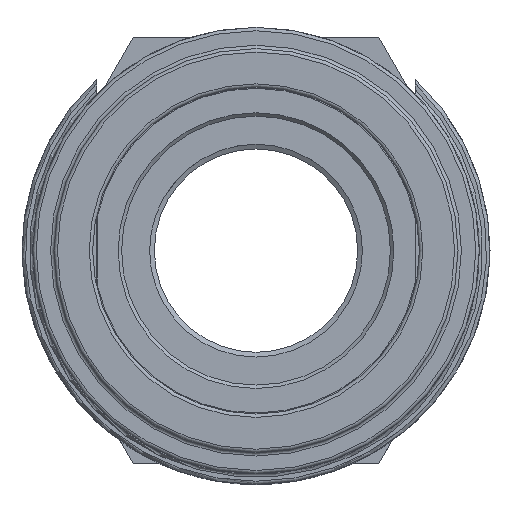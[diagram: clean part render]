
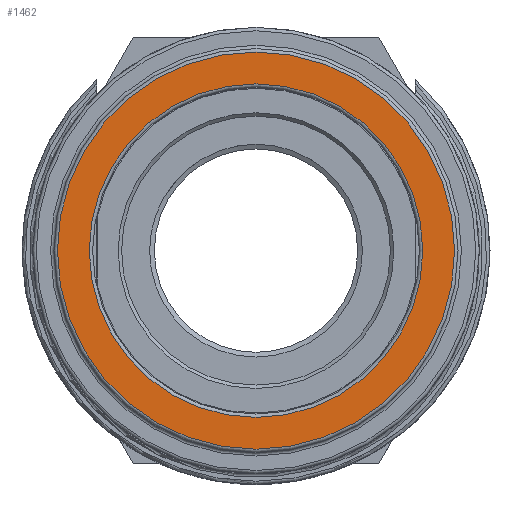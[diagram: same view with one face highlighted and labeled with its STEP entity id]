
A CAD part, front view. The second image highlights one B-rep face of the part: STEP entity #1462.
In plain terms, the highlighted planar face has unit normal (0, -1, 0).
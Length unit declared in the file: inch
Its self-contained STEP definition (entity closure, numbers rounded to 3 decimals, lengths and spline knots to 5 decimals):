
#31=FACE_BOUND('',#209,.T.);
#131=FACE_OUTER_BOUND('',#208,.T.);
#208=EDGE_LOOP('',(#1040,#1041));
#209=EDGE_LOOP('',(#1042,#1043));
#491=CIRCLE('',#1575,0.49);
#492=CIRCLE('',#1576,0.49);
#494=CIRCLE('',#1579,0.5835);
#495=CIRCLE('',#1580,0.5835);
#601=VERTEX_POINT('',#2319);
#602=VERTEX_POINT('',#2321);
#603=VERTEX_POINT('',#2326);
#604=VERTEX_POINT('',#2327);
#772=EDGE_CURVE('',#601,#602,#491,.T.);
#773=EDGE_CURVE('',#602,#601,#492,.T.);
#775=EDGE_CURVE('',#603,#604,#494,.T.);
#776=EDGE_CURVE('',#604,#603,#495,.T.);
#1040=ORIENTED_EDGE('',*,*,#775,.F.);
#1041=ORIENTED_EDGE('',*,*,#776,.F.);
#1042=ORIENTED_EDGE('',*,*,#773,.F.);
#1043=ORIENTED_EDGE('',*,*,#772,.F.);
#1419=PLANE('',#1578);
#1462=ADVANCED_FACE('',(#131,#31),#1419,.T.);
#1575=AXIS2_PLACEMENT_3D('',#2322,#1813,#1814);
#1576=AXIS2_PLACEMENT_3D('',#2323,#1815,#1816);
#1578=AXIS2_PLACEMENT_3D('',#2325,#1819,#1820);
#1579=AXIS2_PLACEMENT_3D('',#2328,#1821,#1822);
#1580=AXIS2_PLACEMENT_3D('',#2329,#1823,#1824);
#1813=DIRECTION('center_axis',(0.,-1.,0.));
#1814=DIRECTION('ref_axis',(0.,0.,1.));
#1815=DIRECTION('center_axis',(0.,-1.,0.));
#1816=DIRECTION('ref_axis',(0.,0.,1.));
#1819=DIRECTION('center_axis',(0.,-1.,0.));
#1820=DIRECTION('ref_axis',(0.,0.,-1.));
#1821=DIRECTION('center_axis',(0.,1.,0.));
#1822=DIRECTION('ref_axis',(0.,0.,1.));
#1823=DIRECTION('center_axis',(0.,1.,0.));
#1824=DIRECTION('ref_axis',(0.,0.,1.));
#2319=CARTESIAN_POINT('',(0.,0.,0.49));
#2321=CARTESIAN_POINT('',(0.,0.,-0.49));
#2322=CARTESIAN_POINT('Origin',(0.,0.,0.));
#2323=CARTESIAN_POINT('Origin',(0.,0.,0.));
#2325=CARTESIAN_POINT('Origin',(0.,0.,-0.48));
#2326=CARTESIAN_POINT('',(0.,0.,-0.5835));
#2327=CARTESIAN_POINT('',(0.,0.,0.5835));
#2328=CARTESIAN_POINT('Origin',(0.,0.,0.));
#2329=CARTESIAN_POINT('Origin',(0.,0.,0.));
